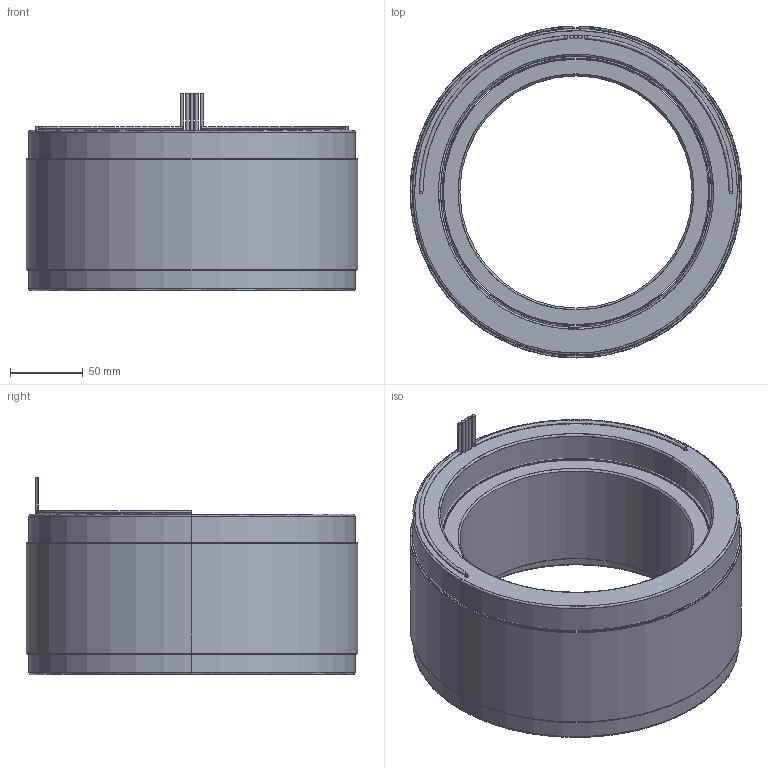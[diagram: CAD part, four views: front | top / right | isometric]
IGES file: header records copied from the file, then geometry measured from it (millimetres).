
Start section: SolidWorks IGES file using analytic representation for surfaces
Global section: file name: Z:\STANDARD STATOR ROTOR SETS\NEW DIRECT DRIVE MOTOR\9 OD 36S 32P\6100346-05.IGS; native system: SolidWorks 2016; preprocessor: SolidWorks 2016; author: eng; date: 191023.163614; units: millimetre
Bounding box: 228.6 x 228.58 x 135.89 mm (x, y, z)
Surface area: 503555.7 mm2 (no closed solid volume)
Topology: 0 solids, 0 shells, 98 faces, 2664 edges, 2664 vertices
Faces by surface type: revolution 56, bspline 42
